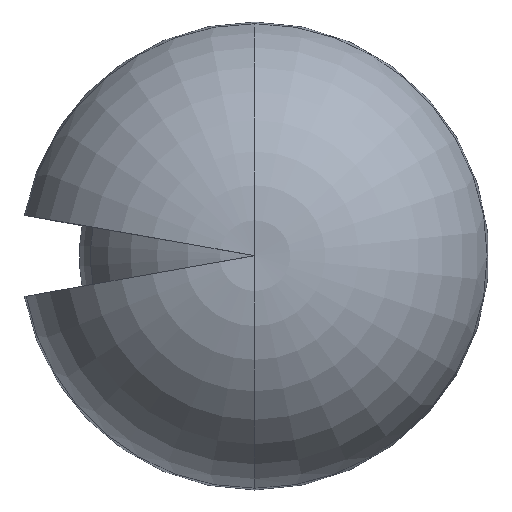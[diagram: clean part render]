
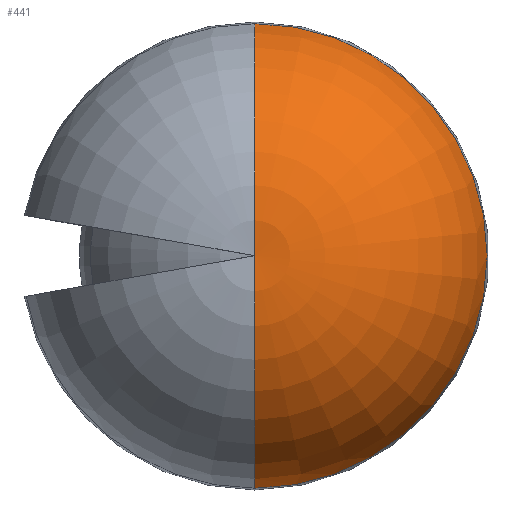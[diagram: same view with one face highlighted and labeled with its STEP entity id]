
A CAD part, top view. The second image highlights one B-rep face of the part: STEP entity #441.
In plain terms, the highlighted toroidal (fillet/blend) face has major radius 340 mm and minor radius 2775.01 mm.
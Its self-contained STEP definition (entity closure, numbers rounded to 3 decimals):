
#1 = ORIENTED_EDGE ( 'NONE', *, *, #5, .F. ) ;
#5 = EDGE_CURVE ( 'NONE', #218, #465, #169, .T. ) ;
#31 = DIRECTION ( 'NONE',  ( 0., 1., 0. ) ) ;
#34 = CARTESIAN_POINT ( 'NONE',  ( 0., 340., 780. ) ) ;
#57 = CARTESIAN_POINT ( 'NONE',  ( 0., 0., 780. ) ) ;
#61 = CARTESIAN_POINT ( 'NONE',  ( 0., 0., 3534.102 ) ) ;
#65 = AXIS2_PLACEMENT_3D ( 'NONE', #506, #227, #31 ) ;
#106 = DIRECTION ( 'NONE',  ( 0., 1., 0. ) ) ;
#113 = EDGE_CURVE ( 'NONE', #465, #313, #369, .T. ) ;
#125 = TOROIDAL_SURFACE ( 'NONE', #434, 340., 2775.01 ) ;
#135 = CARTESIAN_POINT ( 'NONE',  ( 0., 3072.851, 1261.875 ) ) ;
#169 = CIRCLE ( 'NONE', #253, 2775.01 ) ;
#176 = DIRECTION ( 'NONE',  ( 0., 0., -1. ) ) ;
#218 = VERTEX_POINT ( 'NONE', #61 ) ;
#222 = DIRECTION ( 'NONE',  ( 0., 0., -1. ) ) ;
#227 = DIRECTION ( 'NONE',  ( 1., 0., 0. ) ) ;
#253 = AXIS2_PLACEMENT_3D ( 'NONE', #34, #364, #482 ) ;
#286 = DIRECTION ( 'NONE',  ( 0., 1., 0. ) ) ;
#292 = AXIS2_PLACEMENT_3D ( 'NONE', #416, #176, #286 ) ;
#313 = VERTEX_POINT ( 'NONE', #393 ) ;
#324 = CIRCLE ( 'NONE', #65, 2775.01 ) ;
#340 = EDGE_CURVE ( 'NONE', #218, #313, #324, .T. ) ;
#354 = EDGE_LOOP ( 'NONE', ( #1, #386, #374 ) ) ;
#364 = DIRECTION ( 'NONE',  ( -1., 0., 0. ) ) ;
#369 = CIRCLE ( 'NONE', #292, 3072.851 ) ;
#374 = ORIENTED_EDGE ( 'NONE', *, *, #113, .F. ) ;
#386 = ORIENTED_EDGE ( 'NONE', *, *, #340, .T. ) ;
#393 = CARTESIAN_POINT ( 'NONE',  ( 0., -3072.851, 1261.875 ) ) ;
#416 = CARTESIAN_POINT ( 'NONE',  ( 0., 0., 1261.875 ) ) ;
#434 = AXIS2_PLACEMENT_3D ( 'NONE', #57, #222, #106 ) ;
#441 = ADVANCED_FACE ( 'NONE', ( #497 ), #125, .T. ) ;
#465 = VERTEX_POINT ( 'NONE', #135 ) ;
#482 = DIRECTION ( 'NONE',  ( 0., 0., 1. ) ) ;
#497 = FACE_OUTER_BOUND ( 'NONE', #354, .T. ) ;
#506 = CARTESIAN_POINT ( 'NONE',  ( 0., -340., 780. ) ) ;
